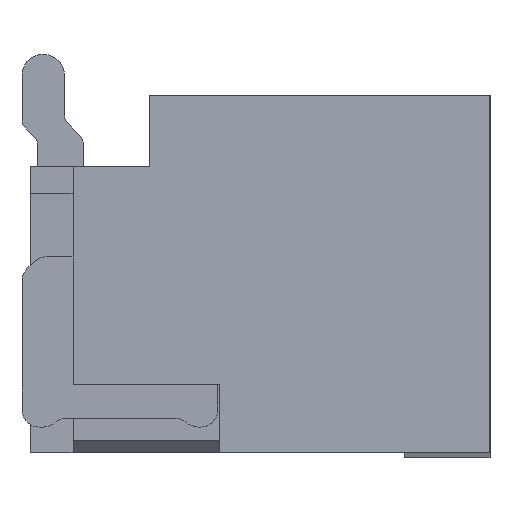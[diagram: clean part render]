
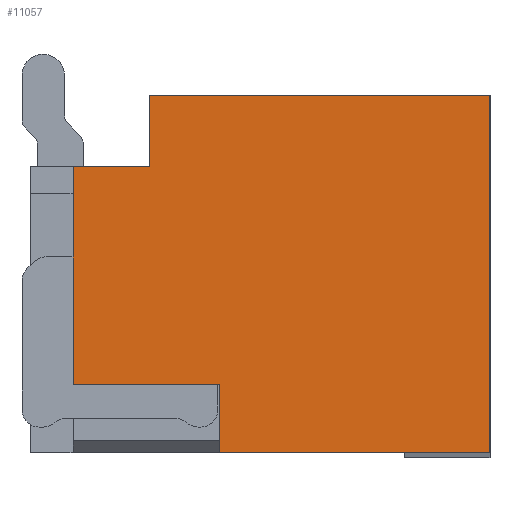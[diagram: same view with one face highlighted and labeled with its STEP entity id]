
A CAD part, left-side view. The second image highlights one B-rep face of the part: STEP entity #11057.
In plain terms, the highlighted planar face has unit normal (-1, 0, 0).
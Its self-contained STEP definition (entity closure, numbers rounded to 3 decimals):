
#1095=DIRECTION('',(0.,0.,1.));
#1096=VECTOR('',#1095,0.42);
#1097=CARTESIAN_POINT('',(45.951,48.255,-2.435));
#1098=LINE('',#1097,#1096);
#1247=DIRECTION('',(0.,1.,0.));
#1248=VECTOR('',#1247,1.59);
#1249=CARTESIAN_POINT('',(45.951,46.255,-4.115));
#1250=LINE('',#1249,#1248);
#1275=DIRECTION('',(0.,0.,-1.));
#1276=VECTOR('',#1275,2.1);
#1277=CARTESIAN_POINT('',(45.951,46.255,-2.015));
#1278=LINE('',#1277,#1276);
#1307=DIRECTION('',(0.,1.,0.));
#1308=VECTOR('',#1307,0.45);
#1309=CARTESIAN_POINT('',(45.951,48.255,-2.435));
#1310=LINE('',#1309,#1308);
#1311=DIRECTION('',(0.,1.,0.));
#1312=VECTOR('',#1311,2.);
#1313=CARTESIAN_POINT('',(45.951,46.255,-2.015));
#1314=LINE('',#1313,#1312);
#1315=DIRECTION('',(0.,0.,-1.));
#1316=VECTOR('',#1315,0.4);
#1317=CARTESIAN_POINT('',(45.951,47.845,-3.715));
#1318=LINE('',#1317,#1316);
#1443=DIRECTION('',(0.,0.,1.));
#1444=VECTOR('',#1443,1.28);
#1445=CARTESIAN_POINT('',(45.951,48.705,-3.715));
#1446=LINE('',#1445,#1444);
#4779=DIRECTION('',(0.,1.,0.));
#4780=VECTOR('',#4779,0.86);
#4781=CARTESIAN_POINT('',(45.951,47.845,-3.715));
#4782=LINE('',#4781,#4780);
#7363=CARTESIAN_POINT('',(45.951,48.705,-2.435));
#7364=VERTEX_POINT('',#7363);
#7365=CARTESIAN_POINT('',(45.951,48.705,-3.715));
#7366=VERTEX_POINT('',#7365);
#7730=CARTESIAN_POINT('',(45.951,47.845,-3.715));
#7731=VERTEX_POINT('',#7730);
#7746=CARTESIAN_POINT('',(45.951,47.845,-4.115));
#7747=VERTEX_POINT('',#7746);
#7890=CARTESIAN_POINT('',(45.951,46.255,-4.115));
#7891=VERTEX_POINT('',#7890);
#7908=CARTESIAN_POINT('',(45.951,48.255,-2.435));
#7909=CARTESIAN_POINT('',(45.951,48.255,-2.015));
#7910=VERTEX_POINT('',#7908);
#7911=VERTEX_POINT('',#7909);
#7912=CARTESIAN_POINT('',(45.951,46.255,-2.015));
#7913=VERTEX_POINT('',#7912);
#11039=CARTESIAN_POINT('',(45.951,75.644,
-2.446));
#11040=DIRECTION('',(-1.,0.,0.));
#11041=DIRECTION('',(0.,0.,1.));
#11042=AXIS2_PLACEMENT_3D('',#11039,#11040,#11041);
#11043=PLANE('',#11042);
#11044=ORIENTED_EDGE('',*,*,#10667,.F.);
#11045=ORIENTED_EDGE('',*,*,#10762,.T.);
#11046=ORIENTED_EDGE('',*,*,#11032,.F.);
#11047=ORIENTED_EDGE('',*,*,#10996,.T.);
#11048=ORIENTED_EDGE('',*,*,#10975,.T.);
#11050=ORIENTED_EDGE('',*,*,#11049,.F.);
#11052=ORIENTED_EDGE('',*,*,#11051,.T.);
#11054=ORIENTED_EDGE('',*,*,#11053,.T.);
#11055=EDGE_LOOP('',(#11044,#11045,#11046,#11047,#11048,#11050,#11052,#11054));
#11056=FACE_OUTER_BOUND('',#11055,.F.);
#11057=ADVANCED_FACE('',(#11056),#11043,.T.);
#10667=EDGE_CURVE('',#7910,#7364,#1310,.T.);
#10762=EDGE_CURVE('',#7910,#7911,#1098,.T.);
#10975=EDGE_CURVE('',#7891,#7747,#1250,.T.);
#10996=EDGE_CURVE('',#7913,#7891,#1278,.T.);
#11032=EDGE_CURVE('',#7913,#7911,#1314,.T.);
#11049=EDGE_CURVE('',#7731,#7747,#1318,.T.);
#11051=EDGE_CURVE('',#7731,#7366,#4782,.T.);
#11053=EDGE_CURVE('',#7366,#7364,#1446,.T.);
